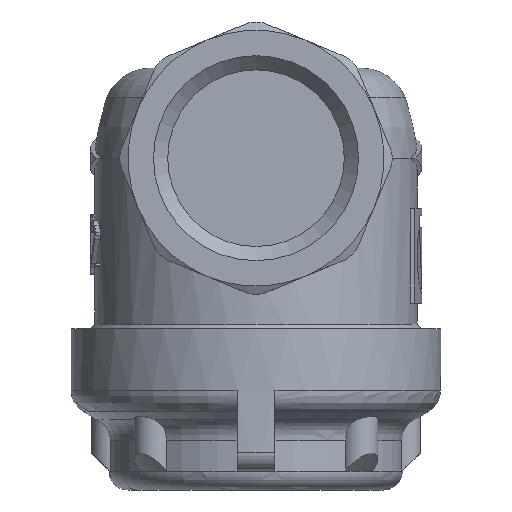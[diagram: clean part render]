
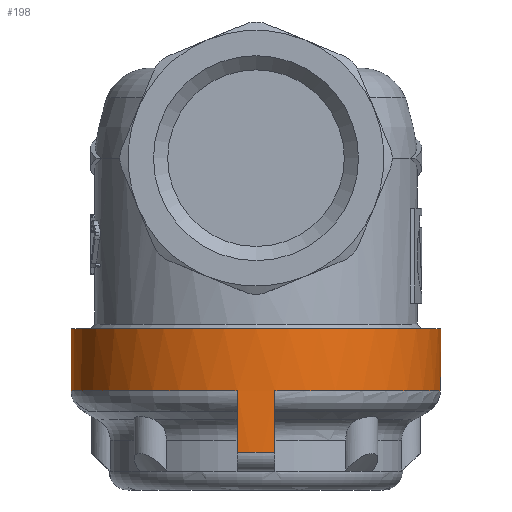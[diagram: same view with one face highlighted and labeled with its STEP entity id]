
A CAD part, front view. The second image highlights one B-rep face of the part: STEP entity #198.
In plain terms, the highlighted cylindrical face has radius 19.5 mm (diameter 39 mm), a full revolution.
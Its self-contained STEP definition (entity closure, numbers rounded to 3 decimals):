
#198=ADVANCED_FACE('',(#1286,#1288),#1290,.T.);
#1286=FACE_BOUND('',#1287,.T.);
#1287=EDGE_LOOP('',(#2595,#2596,#2597,#2598,#2599));
#1288=FACE_OUTER_BOUND('',#1289,.T.);
#1289=EDGE_LOOP('',(#2600));
#1290=CYLINDRICAL_SURFACE('',#1291,19.5);
#1291=AXIS2_PLACEMENT_3D('',#1292,#1293,#1294);
#1292=CARTESIAN_POINT('',(0.,0.,-17.));
#1293=DIRECTION('',(0.,0.,-1.));
#1294=DIRECTION('',(-1.,0.,0.));
#2595=ORIENTED_EDGE('',*,*,#3292,.F.);
#2596=ORIENTED_EDGE('',*,*,#3293,.F.);
#2597=ORIENTED_EDGE('',*,*,#3294,.T.);
#2598=ORIENTED_EDGE('',*,*,#3295,.F.);
#2599=ORIENTED_EDGE('',*,*,#3296,.F.);
#2600=ORIENTED_EDGE('',*,*,#3263,.F.);
#3263=EDGE_CURVE('',#4067,#4067,#4068,.F.);
#3292=EDGE_CURVE('',#4109,#4110,#4111,.T.);
#3293=EDGE_CURVE('',#4112,#4109,#4113,.T.);
#3294=EDGE_CURVE('',#4112,#4114,#4115,.T.);
#3295=EDGE_CURVE('',#4116,#4114,#4117,.T.);
#3296=EDGE_CURVE('',#4110,#4116,#4118,.T.);
#4067=VERTEX_POINT('',#9226);
#4068=CIRCLE('',#9227,19.5);
#4109=VERTEX_POINT('',#9494);
#4110=VERTEX_POINT('',#9495);
#4111=CIRCLE('',#9496,19.5);
#4112=VERTEX_POINT('',#9500);
#4113=CIRCLE('',#9501,19.5);
#4114=VERTEX_POINT('',#9505);
#4115=LINE('',#9506,#9507);
#4116=VERTEX_POINT('',#9509);
#4117=CIRCLE('',#9510,19.5);
#4118=LINE('',#9514,#9515);
#9226=CARTESIAN_POINT('',(-19.5,0.,-18.));
#9227=AXIS2_PLACEMENT_3D('',#9228,#9229,#9230);
#9228=CARTESIAN_POINT('',(0.,0.,-18.));
#9229=DIRECTION('',(0.,0.,-1.));
#9230=DIRECTION('',(-1.,0.,0.));
#9494=CARTESIAN_POINT('',(-19.5,0.,-24.557));
#9495=CARTESIAN_POINT('',(2.,-19.397,-24.557));
#9496=AXIS2_PLACEMENT_3D('',#9497,#9498,#9499);
#9497=CARTESIAN_POINT('',(0.,0.,-24.557));
#9498=DIRECTION('',(0.,0.,-1.));
#9499=DIRECTION('',(-1.,0.,0.));
#9500=CARTESIAN_POINT('',(-2.,-19.397,-24.557));
#9501=AXIS2_PLACEMENT_3D('',#9502,#9503,#9504);
#9502=CARTESIAN_POINT('',(0.,0.,-24.557));
#9503=DIRECTION('',(0.,0.,-1.));
#9504=DIRECTION('',(-0.103,-0.995,0.));
#9505=CARTESIAN_POINT('',(-2.,-19.397,-31.));
#9506=CARTESIAN_POINT('',(-2.,-19.397,-24.557));
#9507=VECTOR('',#9508,1.);
#9508=DIRECTION('',(0.,0.,-1.));
#9509=CARTESIAN_POINT('',(2.,-19.397,-31.));
#9510=AXIS2_PLACEMENT_3D('',#9511,#9512,#9513);
#9511=CARTESIAN_POINT('',(0.,0.,-31.));
#9512=DIRECTION('',(0.,0.,-1.));
#9513=DIRECTION('',(0.103,-0.995,0.));
#9514=CARTESIAN_POINT('',(2.,-19.397,-24.557));
#9515=VECTOR('',#9516,1.);
#9516=DIRECTION('',(0.,0.,-1.));
